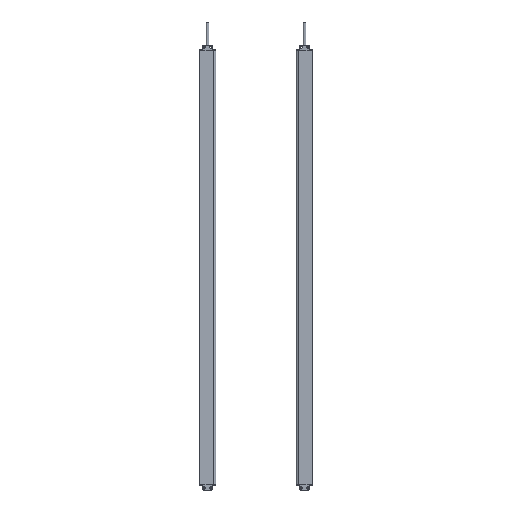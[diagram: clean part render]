
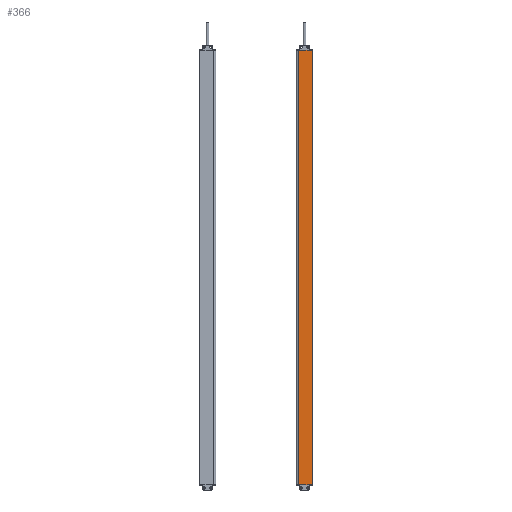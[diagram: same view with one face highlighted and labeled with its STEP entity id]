
A CAD part, front view. The second image highlights one B-rep face of the part: STEP entity #366.
In plain terms, the highlighted planar face has unit normal (0, -1, 0).
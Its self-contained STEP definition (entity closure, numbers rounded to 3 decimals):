
#123=PLANE('',#5869);
#366=ADVANCED_FACE('',(#797),#123,.T.);
#797=FACE_OUTER_BOUND('',#1073,.T.);
#1073=EDGE_LOOP('',(#1780,#1781,#1782,#1783));
#1780=ORIENTED_EDGE('',*,*,#3977,.T.);
#1781=ORIENTED_EDGE('',*,*,#3978,.F.);
#1782=ORIENTED_EDGE('',*,*,#3979,.F.);
#1783=ORIENTED_EDGE('',*,*,#3903,.T.);
#3351=VERTEX_POINT('',#8106);
#3352=VERTEX_POINT('',#8108);
#3421=VERTEX_POINT('',#8253);
#3422=VERTEX_POINT('',#8257);
#3903=EDGE_CURVE('',#3352,#3351,#4726,.T.);
#3977=EDGE_CURVE('',#3351,#3421,#4771,.T.);
#3978=EDGE_CURVE('',#3422,#3421,#4772,.T.);
#3979=EDGE_CURVE('',#3352,#3422,#4773,.T.);
#4726=LINE('',#8107,#5280);
#4771=LINE('',#8254,#5325);
#4772=LINE('',#8256,#5326);
#4773=LINE('',#8258,#5327);
#5280=VECTOR('',#6413,1.);
#5325=VECTOR('',#6522,1.);
#5326=VECTOR('',#6525,1.);
#5327=VECTOR('',#6526,1.);
#5869=AXIS2_PLACEMENT_3D('',#8259,#6527,#6528);
#6413=DIRECTION('',(1.,0.,0.));
#6522=DIRECTION('',(0.,0.,1.));
#6525=DIRECTION('',(1.,0.,0.));
#6526=DIRECTION('',(0.,0.,1.));
#6527=DIRECTION('',(0.,-1.,0.));
#6528=DIRECTION('',(-1.,0.,0.));
#8106=CARTESIAN_POINT('',(3.35,-1.3,-100.));
#8107=CARTESIAN_POINT('',(-21.15,-1.3,-100.));
#8108=CARTESIAN_POINT('',(-21.15,-1.3,-100.));
#8253=CARTESIAN_POINT('',(3.35,-1.3,662.));
#8254=CARTESIAN_POINT('',(3.35,-1.3,-100.));
#8256=CARTESIAN_POINT('',(-4122.897,-1.3,662.));
#8257=CARTESIAN_POINT('',(-21.15,-1.3,662.));
#8258=CARTESIAN_POINT('',(-21.15,-1.3,-100.));
#8259=CARTESIAN_POINT('',(-21.15,-1.3,-100.));
